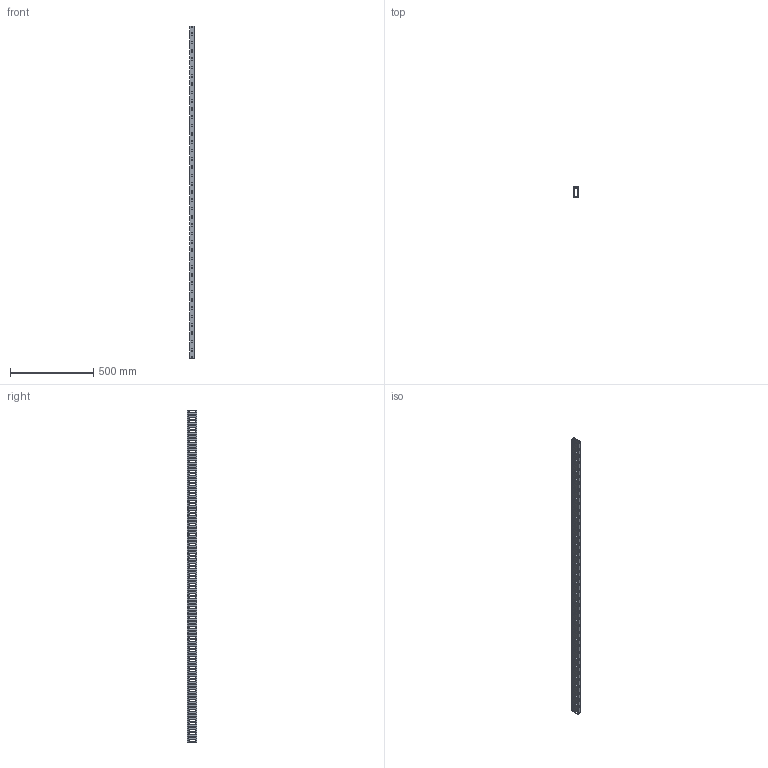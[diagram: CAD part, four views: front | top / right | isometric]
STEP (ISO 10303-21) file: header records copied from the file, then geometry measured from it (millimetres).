
FILE_DESCRIPTION (( 'STEP AP214' ), '1' );
FILE_NAME ('KD-26-20-T.STEP', '2020-02-19T00:00:21', ( '' ), ( '' ), 'SwSTEP 2.0', 'SolidWorks 2018', '' );
FILE_SCHEMA (( 'AUTOMOTIVE_DESIGN' ));
Length unit declared in the file: millimetre
Products named in the file (3): KD-26-20-T-body; KD-26-20-T; KD-24-20-cover
Assembly tree (2 placements, depth 2):
  KD-26-20-T
    KD-26-20-T-body
    KD-24-20-cover
Bounding box: 25 x 60.17 x 2000 mm (x, y, z)
Volume: 526883 mm3; surface area: 712338.6 mm2
Topology: 2 solids, 2 shells, 2827 faces, 9669 edges, 6446 vertices
Faces by surface type: plane 1712, cylinder 1115
Entity records: 106099 total; most frequent: CARTESIAN_POINT 20147, ORIENTED_EDGE 19338, DIRECTION 17563, EDGE_CURVE 9669, LINE 6639, VECTOR 6639, VERTEX_POINT 6446, AXIS2_PLACEMENT_3D 5462
